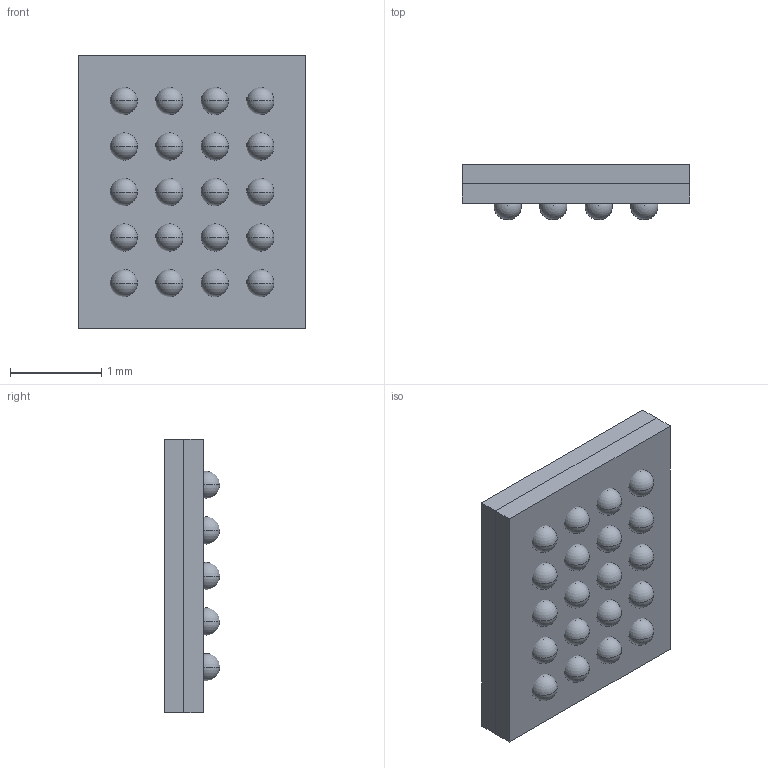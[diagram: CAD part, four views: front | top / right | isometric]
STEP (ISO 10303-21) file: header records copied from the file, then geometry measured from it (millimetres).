
FILE_DESCRIPTION (( 'STEP AP214' ), '1' );
FILE_NAME ( 'BGA20CP50_5X4_250X300X61B30.STEP', '2021-10-06T06:49:13', ( '' ), ( '' ), '', '©2017 PCB Libraries, Inc.', '' );
FILE_SCHEMA (( 'AUTOMOTIVE_DESIGN' ));
Length unit declared in the file: millimetre
Products named in the file (1): BGA20CP50_5X4_250X300X61B30
Bounding box: 2.5 x 0.61 x 3 mm (x, y, z)
Volume: 3.5 mm3; surface area: 40.4 mm2
Topology: 22 solids, 22 shells, 55 faces, 170 edges, 120 vertices
Faces by surface type: sphere 40, plane 13, torus 2
Entity records: 1562 total; most frequent: DIRECTION 228, CARTESIAN_POINT 186, ORIENTED_EDGE 140, AXIS2_PLACEMENT_3D 102, STYLED_ITEM 78, PRESENTATION_LAYER_ASSIGNMENT 78, MECHANICAL_DESIGN_GEOMETRIC_PRESENTATION_REPRESENTATION 78, EDGE_CURVE 70
